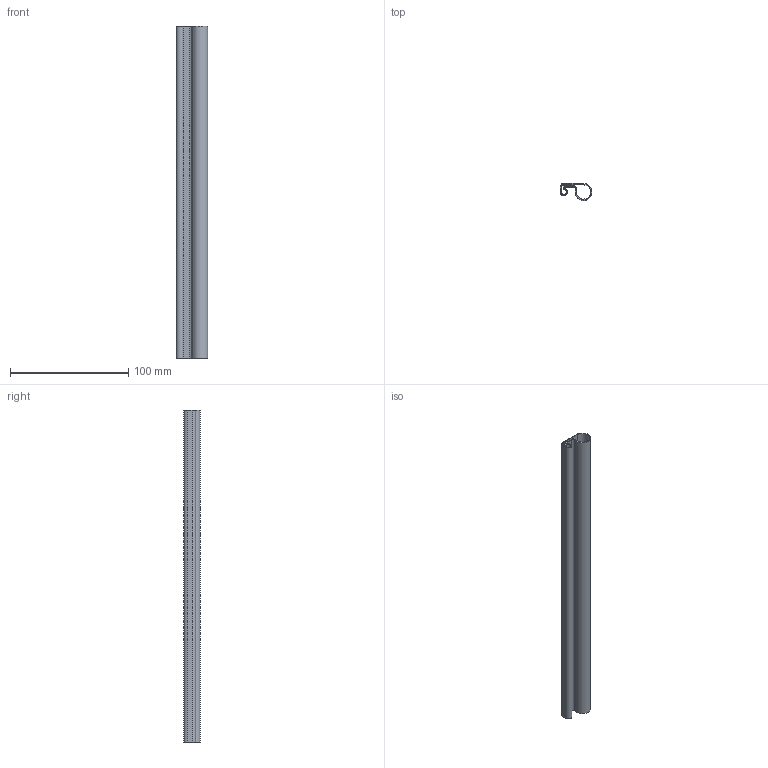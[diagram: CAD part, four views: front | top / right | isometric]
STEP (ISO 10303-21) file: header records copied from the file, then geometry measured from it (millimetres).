
FILE_DESCRIPTION(/* description */ (''),/* implementation_level */ '2;1');
FILE_NAME(/* name */ 'H:\3D_KONSTRUKCE\ROLETA+CHLEBNIK\ROLETA_RENDER\roleta_280x10mm_endpart.stp',/* time_stamp */ '2016-01-21T10:35:11+01:00',/* author */ ('uidn2323'),/* organization */ (''),/* preprocessor_version */ 'ST-DEVELOPER v15.6',/* originating_system */ 'Autodesk Inventor 2015',/* authorisation */ '');
FILE_SCHEMA (('AUTOMOTIVE_DESIGN { 1 0 10303 214 3 1 1 }'));
Length unit declared in the file: millimetre
Products named in the file (1): roletka_konecna
Bounding box: 26.7 x 14.03 x 280.4 mm (x, y, z)
Volume: 18964.2 mm3; surface area: 47560.6 mm2
Topology: 1 solids, 1 shells, 22 faces, 60 edges, 40 vertices
Faces by surface type: plane 12, cylinder 10
Entity records: 732 total; most frequent: DIRECTION 126, CARTESIAN_POINT 123, ORIENTED_EDGE 120, EDGE_CURVE 60, AXIS2_PLACEMENT_3D 43, LINE 40, VECTOR 40, VERTEX_POINT 40
